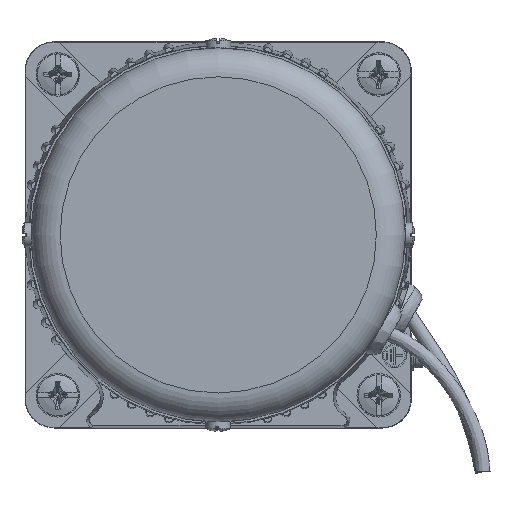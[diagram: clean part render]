
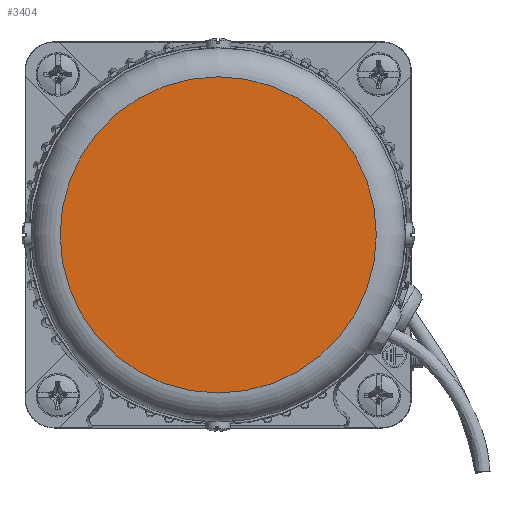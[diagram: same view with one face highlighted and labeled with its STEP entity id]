
A CAD part, left-side view. The second image highlights one B-rep face of the part: STEP entity #3404.
In plain terms, the highlighted planar face has unit normal (-1, 0, 0).
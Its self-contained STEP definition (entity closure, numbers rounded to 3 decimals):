
#3404=ADVANCED_FACE('',(#4643),#4329,.F.);
#4329=PLANE('',#15336);
#4643=FACE_OUTER_BOUND('',#5386,.T.);
#5386=EDGE_LOOP('',(#6530));
#6530=ORIENTED_EDGE('',*,*,#12478,.F.);
#10970=VERTEX_POINT('',#19076);
#12478=EDGE_CURVE('',#10970,#10970,#14844,.T.);
#14844=CIRCLE('',#15335,32.75);
#15335=AXIS2_PLACEMENT_3D('',#19075,#16453,#16454);
#15336=AXIS2_PLACEMENT_3D('',#19077,#16455,#16456);
#16453=DIRECTION('',(1.,0.,0.));
#16454=DIRECTION('',(0.,0.,-1.));
#16455=DIRECTION('',(1.,0.,0.));
#16456=DIRECTION('',(0.,0.,-1.));
#19075=CARTESIAN_POINT('',(-127.5,40.,40.));
#19076=CARTESIAN_POINT('',(-127.5,40.,7.25));
#19077=CARTESIAN_POINT('',(-127.5,40.,40.));
